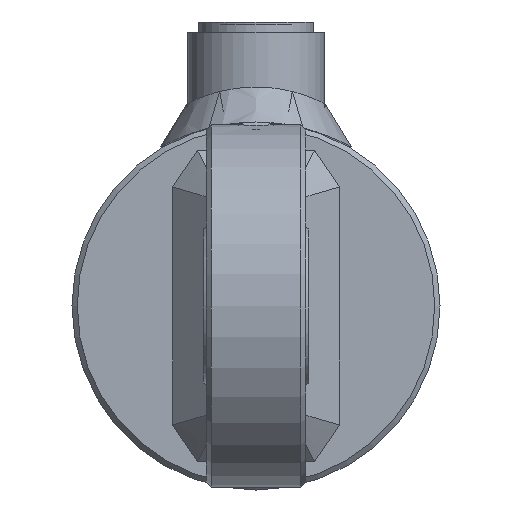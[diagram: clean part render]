
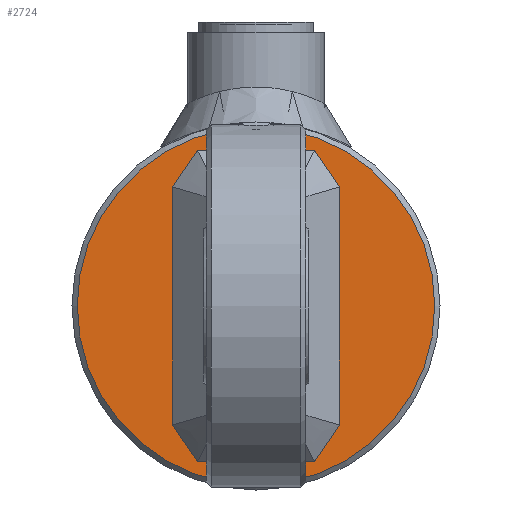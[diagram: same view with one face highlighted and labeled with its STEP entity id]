
A CAD part, left-side view. The second image highlights one B-rep face of the part: STEP entity #2724.
In plain terms, the highlighted planar face has unit normal (-1, 0, 0).
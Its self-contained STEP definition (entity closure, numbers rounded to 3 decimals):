
#2724 = ADVANCED_FACE( '', ( #9445 ), #9446, .T. );
#9445 = FACE_OUTER_BOUND( '', #11299, .T. );
#9446 = PLANE( '', #11300 );
#11299 = EDGE_LOOP( '', ( #12132 ) );
#11300 = AXIS2_PLACEMENT_3D( '', #12133, #12134, #12135 );
#12132 = ORIENTED_EDGE( '', *, *, #13345, .T. );
#12133 = CARTESIAN_POINT( '', ( -12., 0., 0. ) );
#12134 = DIRECTION( '', ( -1., 0., 0. ) );
#12135 = DIRECTION( '', ( 0., -1., 0. ) );
#13345 = EDGE_CURVE( '', #17101, #17101, #17102, .T. );
#17101 = VERTEX_POINT( '', #17730 );
#17102 = CIRCLE( '', #17731, 34. );
#17730 = CARTESIAN_POINT( '', ( -12., -34., 0. ) );
#17731 = AXIS2_PLACEMENT_3D( '', #17842, #17843, #17844 );
#17842 = CARTESIAN_POINT( '', ( -12., 0., 0. ) );
#17843 = DIRECTION( '', ( -1., 0., 0. ) );
#17844 = DIRECTION( '', ( 0., -1., 0. ) );
